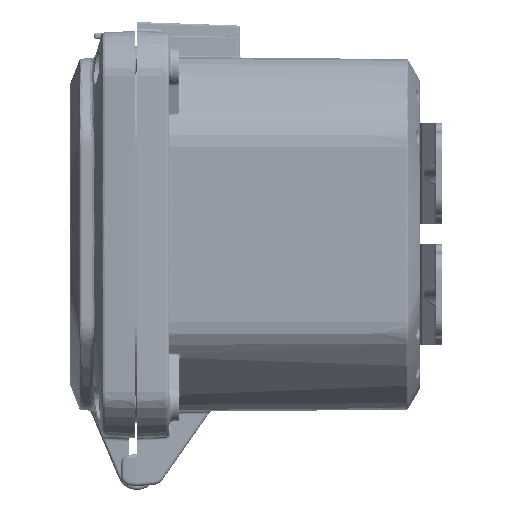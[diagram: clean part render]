
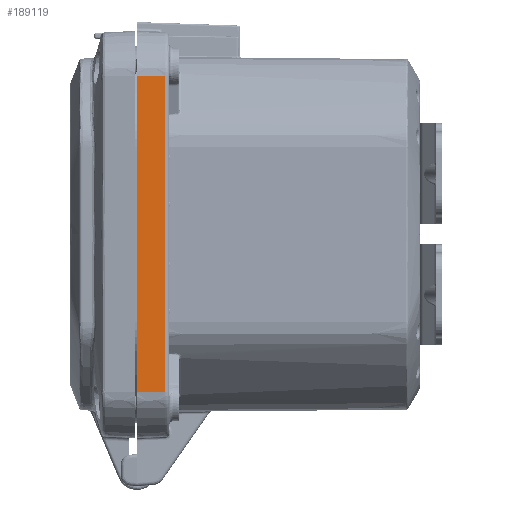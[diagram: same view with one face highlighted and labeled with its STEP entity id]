
A CAD part, left-side view. The second image highlights one B-rep face of the part: STEP entity #189119.
In plain terms, the highlighted planar face has unit normal (-0.999, -0.035, 0).
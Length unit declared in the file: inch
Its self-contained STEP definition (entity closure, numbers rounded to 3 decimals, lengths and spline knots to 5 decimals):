
#10104 = CARTESIAN_POINT ( 'NONE',  ( -3.52, 0., 1.95755 ) ) ;
#14182 = CARTESIAN_POINT ( 'NONE',  ( -3.52, 0., -1.95755 ) ) ;
#19935 = VECTOR ( 'NONE', #56901, 39.37008 ) ;
#21180 = DIRECTION ( 'NONE',  ( 0., 0., 1. ) ) ;
#22190 = CARTESIAN_POINT ( 'NONE',  ( -3.52, 0., -1.95755 ) ) ;
#22923 = AXIS2_PLACEMENT_3D ( 'NONE', #109900, #26194, #124950 ) ;
#26194 = DIRECTION ( 'NONE',  ( -0.999, -0.035, 0. ) ) ;
#30267 = VERTEX_POINT ( 'NONE', #113185 ) ;
#30415 = VERTEX_POINT ( 'NONE', #122952 ) ;
#32976 = VERTEX_POINT ( 'NONE', #22190 ) ;
#45488 = FACE_OUTER_BOUND ( 'NONE', #109689, .T. ) ;
#49411 = EDGE_CURVE ( 'NONE', #32976, #180428, #97903, .T. ) ;
#56901 = DIRECTION ( 'NONE',  ( 0., 0., 1. ) ) ;
#60355 = ORIENTED_EDGE ( 'NONE', *, *, #49411, .T. ) ;
#75930 = EDGE_CURVE ( 'NONE', #30267, #30415, #174306, .T. ) ;
#76704 = DIRECTION ( 'NONE',  ( 0.035, -0.999, 0. ) ) ;
#89574 = EDGE_CURVE ( 'NONE', #180428, #30415, #122327, .T. ) ;
#97903 = LINE ( 'NONE', #14182, #143898 ) ;
#100353 = ORIENTED_EDGE ( 'NONE', *, *, #89574, .T. ) ;
#109689 = EDGE_LOOP ( 'NONE', ( #100353, #204965, #155062, #60355 ) ) ;
#109900 = CARTESIAN_POINT ( 'NONE',  ( -3.52, 0., 2.2 ) ) ;
#113185 = CARTESIAN_POINT ( 'NONE',  ( -3.52, 0., 1.95755 ) ) ;
#122044 = CARTESIAN_POINT ( 'NONE',  ( -3.52, 0., 2.2 ) ) ;
#122327 = LINE ( 'NONE', #151364, #19935 ) ;
#122952 = CARTESIAN_POINT ( 'NONE',  ( -3.50772, -0.35174, 1.95755 ) ) ;
#124950 = DIRECTION ( 'NONE',  ( 0.035, -0.999, 0. ) ) ;
#128688 = CARTESIAN_POINT ( 'NONE',  ( -3.50772, -0.35174, -1.95755 ) ) ;
#135477 = VECTOR ( 'NONE', #21180, 39.37008 ) ;
#143156 = PLANE ( 'NONE',  #22923 ) ;
#143898 = VECTOR ( 'NONE', #163328, 39.37008 ) ;
#151364 = CARTESIAN_POINT ( 'NONE',  ( -3.50772, -0.35174, 1.95755 ) ) ;
#155062 = ORIENTED_EDGE ( 'NONE', *, *, #175659, .F. ) ;
#163328 = DIRECTION ( 'NONE',  ( 0.035, -0.999, 0. ) ) ;
#168185 = VECTOR ( 'NONE', #76704, 39.37008 ) ;
#168212 = LINE ( 'NONE', #122044, #135477 ) ;
#174306 = LINE ( 'NONE', #10104, #168185 ) ;
#175659 = EDGE_CURVE ( 'NONE', #32976, #30267, #168212, .T. ) ;
#180428 = VERTEX_POINT ( 'NONE', #128688 ) ;
#189119 = ADVANCED_FACE ( 'NONE', ( #45488 ), #143156, .T. ) ;
#204965 = ORIENTED_EDGE ( 'NONE', *, *, #75930, .F. ) ;
